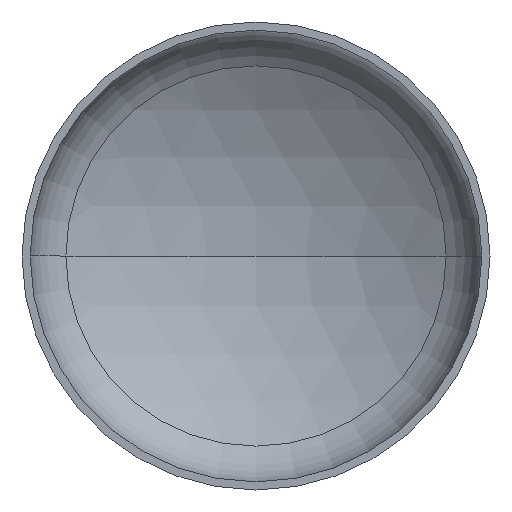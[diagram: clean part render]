
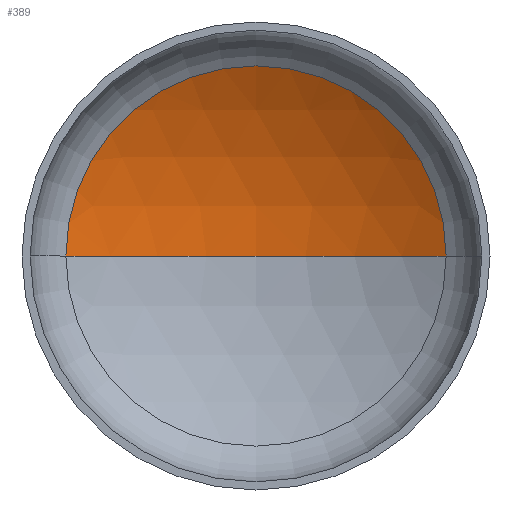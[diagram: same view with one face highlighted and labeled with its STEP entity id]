
A CAD part, front view. The second image highlights one B-rep face of the part: STEP entity #389.
In plain terms, the highlighted spherical face has radius 1600 mm.
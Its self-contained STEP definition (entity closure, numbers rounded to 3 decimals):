
#2 = AXIS2_PLACEMENT_3D ( 'NONE', #311, #103, #127 ) ;
#13 = ORIENTED_EDGE ( 'NONE', *, *, #339, .T. ) ;
#15 = AXIS2_PLACEMENT_3D ( 'NONE', #139, #378, #205 ) ;
#16 = AXIS2_PLACEMENT_3D ( 'NONE', #87, #356, #267 ) ;
#18 = AXIS2_PLACEMENT_3D ( 'NONE', #84, #93, #110 ) ;
#52 = CARTESIAN_POINT ( 'NONE',  ( 0., 598.661, 0. ) ) ;
#74 = CIRCLE ( 'NONE', #15, 1600. ) ;
#77 = ORIENTED_EDGE ( 'NONE', *, *, #330, .T. ) ;
#81 = EDGE_LOOP ( 'NONE', ( #395, #13, #77 ) ) ;
#84 = CARTESIAN_POINT ( 'NONE',  ( 0., 377.066, 0. ) ) ;
#87 = CARTESIAN_POINT ( 'NONE',  ( 0., -1001.339, 0. ) ) ;
#93 = DIRECTION ( 'NONE',  ( 0., -1., 0. ) ) ;
#101 = VERTEX_POINT ( 'NONE', #188 ) ;
#103 = DIRECTION ( 'NONE',  ( 0., 0., -1. ) ) ;
#110 = DIRECTION ( 'NONE',  ( 1., 0., 0. ) ) ;
#127 = DIRECTION ( 'NONE',  ( -1., 0., 0. ) ) ;
#128 = FACE_OUTER_BOUND ( 'NONE', #81, .T. ) ;
#139 = CARTESIAN_POINT ( 'NONE',  ( 0., -1001.339, 0. ) ) ;
#188 = CARTESIAN_POINT ( 'NONE',  ( 812.403, 377.066, 0. ) ) ;
#191 = CARTESIAN_POINT ( 'NONE',  ( -812.403, 377.066, 0. ) ) ;
#205 = DIRECTION ( 'NONE',  ( -1., 0., 0. ) ) ;
#223 = VERTEX_POINT ( 'NONE', #52 ) ;
#229 = CIRCLE ( 'NONE', #18, 812.403 ) ;
#231 = VERTEX_POINT ( 'NONE', #191 ) ;
#267 = DIRECTION ( 'NONE',  ( 1., 0., 0. ) ) ;
#311 = CARTESIAN_POINT ( 'NONE',  ( 0., -1001.339, 0. ) ) ;
#325 = CIRCLE ( 'NONE', #16, 1600. ) ;
#330 = EDGE_CURVE ( 'NONE', #101, #231, #229, .T. ) ;
#339 = EDGE_CURVE ( 'NONE', #223, #101, #74, .T. ) ;
#341 = EDGE_CURVE ( 'NONE', #223, #231, #325, .T. ) ;
#356 = DIRECTION ( 'NONE',  ( 0., 0., 1. ) ) ;
#359 = SPHERICAL_SURFACE ( 'NONE', #2, 1600. ) ;
#378 = DIRECTION ( 'NONE',  ( 0., 0., -1. ) ) ;
#389 = ADVANCED_FACE ( 'NONE', ( #128 ), #359, .F. ) ;
#395 = ORIENTED_EDGE ( 'NONE', *, *, #341, .F. ) ;
